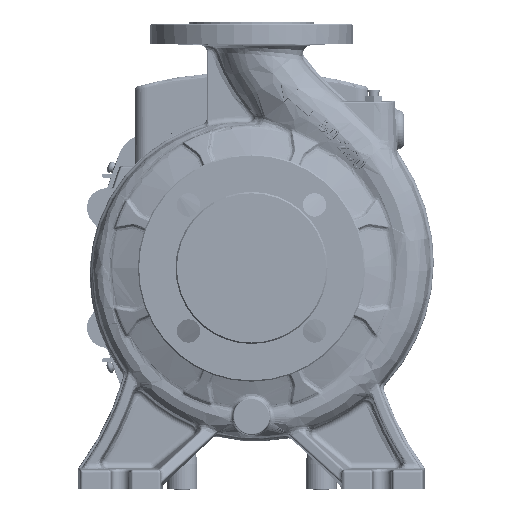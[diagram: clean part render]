
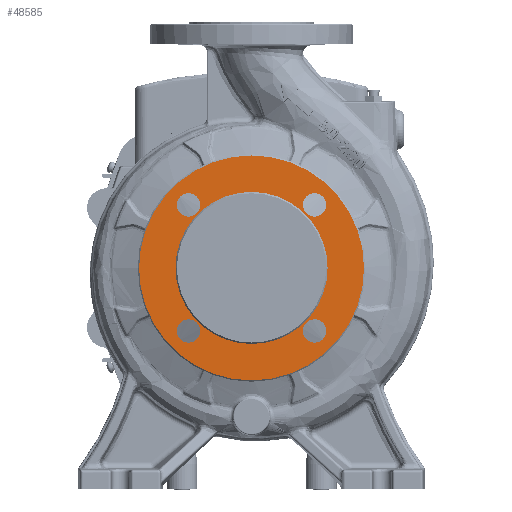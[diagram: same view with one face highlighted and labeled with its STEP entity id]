
A CAD part, left-side view. The second image highlights one B-rep face of the part: STEP entity #48585.
In plain terms, the highlighted planar face has unit normal (-1, 0, 0).
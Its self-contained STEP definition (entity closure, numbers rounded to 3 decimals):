
#261 = CARTESIAN_POINT ( 'NONE',  ( -231.052, 44.548, -57.983 ) ) ;
#371 = CARTESIAN_POINT ( 'NONE',  ( -231.052, -44.548, -57.983 ) ) ;
#1332 = VERTEX_POINT ( 'NONE', #95648 ) ;
#1523 = DIRECTION ( 'NONE',  ( 0., 1., 0. ) ) ;
#1953 = ORIENTED_EDGE ( 'NONE', *, *, #36037, .F. ) ;
#2714 = CIRCLE ( 'NONE', #34685, 9.5 ) ;
#5966 = PLANE ( 'NONE',  #37801 ) ;
#6029 = EDGE_CURVE ( 'NONE', #34391, #108212, #92237, .T. ) ;
#7303 = EDGE_LOOP ( 'NONE', ( #144064, #178997 ) ) ;
#7658 = CARTESIAN_POINT ( 'NONE',  ( -231.052, 0., 0. ) ) ;
#9319 = AXIS2_PLACEMENT_3D ( 'NONE', #102156, #33964, #89418 ) ;
#12334 = EDGE_CURVE ( 'NONE', #123122, #23027, #106817, .T. ) ;
#13925 = CIRCLE ( 'NONE', #77739, 9.5 ) ;
#19609 = DIRECTION ( 'NONE',  ( 0., -1., 0. ) ) ;
#19774 = DIRECTION ( 'NONE',  ( -1., 0., 0. ) ) ;
#20206 = ORIENTED_EDGE ( 'NONE', *, *, #169000, .F. ) ;
#21420 = FACE_BOUND ( 'NONE', #172762, .T. ) ;
#23027 = VERTEX_POINT ( 'NONE', #97337 ) ;
#26525 = EDGE_CURVE ( 'NONE', #108212, #34391, #105216, .T. ) ;
#26878 = AXIS2_PLACEMENT_3D ( 'NONE', #112378, #31438, #99658 ) ;
#29660 = EDGE_LOOP ( 'NONE', ( #34138, #103903 ) ) ;
#31438 = DIRECTION ( 'NONE',  ( -1., 0., 0. ) ) ;
#33298 = DIRECTION ( 'NONE',  ( 1., 0., 0. ) ) ;
#33964 = DIRECTION ( 'NONE',  ( -1., 0., 0. ) ) ;
#34138 = ORIENTED_EDGE ( 'NONE', *, *, #6029, .T. ) ;
#34391 = VERTEX_POINT ( 'NONE', #132506 ) ;
#34685 = AXIS2_PLACEMENT_3D ( 'NONE', #115213, #116121, #88873 ) ;
#36037 = EDGE_CURVE ( 'NONE', #176637, #162954, #171864, .T. ) ;
#36344 = DIRECTION ( 'NONE',  ( 0., 1., 0. ) ) ;
#37159 = AXIS2_PLACEMENT_3D ( 'NONE', #125285, #82614, #66230 ) ;
#37801 = AXIS2_PLACEMENT_3D ( 'NONE', #117802, #33298, #19609 ) ;
#39247 = EDGE_CURVE ( 'NONE', #86935, #1332, #175545, .T. ) ;
#39420 = CIRCLE ( 'NONE', #91665, 9.5 ) ;
#41987 = DIRECTION ( 'NONE',  ( 0., 1., 0. ) ) ;
#43456 = DIRECTION ( 'NONE',  ( -1., 0., 0. ) ) ;
#43990 = DIRECTION ( 'NONE',  ( 0., 1., 0. ) ) ;
#44354 = DIRECTION ( 'NONE',  ( 0., 1., 0. ) ) ;
#45271 = EDGE_CURVE ( 'NONE', #80921, #136602, #2714, .T. ) ;
#45557 = CIRCLE ( 'NONE', #141315, 9.5 ) ;
#46515 = VERTEX_POINT ( 'NONE', #90263 ) ;
#47294 = CARTESIAN_POINT ( 'NONE',  ( -231.052, 44.548, 57.983 ) ) ;
#48585 = ADVANCED_FACE ( 'NONE', ( #173206, #119591, #21420, #145023, #103280, #48689 ), #5966, .F. ) ;
#48689 = FACE_BOUND ( 'NONE', #7303, .T. ) ;
#49032 = CIRCLE ( 'NONE', #115861, 9.5 ) ;
#56821 = ORIENTED_EDGE ( 'NONE', *, *, #45271, .F. ) ;
#60419 = DIRECTION ( 'NONE',  ( 0., 1., 0. ) ) ;
#65103 = CARTESIAN_POINT ( 'NONE',  ( -231.052, -44.548, 57.983 ) ) ;
#65760 = ORIENTED_EDGE ( 'NONE', *, *, #116231, .F. ) ;
#66230 = DIRECTION ( 'NONE',  ( 0., 1., 0. ) ) ;
#70664 = AXIS2_PLACEMENT_3D ( 'NONE', #179440, #110397, #43990 ) ;
#76819 = AXIS2_PLACEMENT_3D ( 'NONE', #7658, #104044, #60419 ) ;
#77244 = DIRECTION ( 'NONE',  ( -1., 0., 0. ) ) ;
#77739 = AXIS2_PLACEMENT_3D ( 'NONE', #176935, #145127, #92448 ) ;
#78688 = ORIENTED_EDGE ( 'NONE', *, *, #121295, .F. ) ;
#80921 = VERTEX_POINT ( 'NONE', #65103 ) ;
#82614 = DIRECTION ( 'NONE',  ( -1., 0., 0. ) ) ;
#86935 = VERTEX_POINT ( 'NONE', #147007 ) ;
#88124 = EDGE_CURVE ( 'NONE', #1332, #86935, #132602, .T. ) ;
#88873 = DIRECTION ( 'NONE',  ( 0., 1., 0. ) ) ;
#88945 = CARTESIAN_POINT ( 'NONE',  ( -231.052, 57.983, -44.548 ) ) ;
#89418 = DIRECTION ( 'NONE',  ( 0., 1., 0. ) ) ;
#90263 = CARTESIAN_POINT ( 'NONE',  ( -231.052, -57.983, -44.548 ) ) ;
#91665 = AXIS2_PLACEMENT_3D ( 'NONE', #112543, #43456, #44354 ) ;
#92237 = CIRCLE ( 'NONE', #138691, 91.5 ) ;
#92448 = DIRECTION ( 'NONE',  ( 0., 1., 0. ) ) ;
#95648 = CARTESIAN_POINT ( 'NONE',  ( -231.052, 61.863, 0.083 ) ) ;
#97337 = CARTESIAN_POINT ( 'NONE',  ( -231.052, 57.983, 44.548 ) ) ;
#97795 = DIRECTION ( 'NONE',  ( -1., 0., 0. ) ) ;
#98365 = ORIENTED_EDGE ( 'NONE', *, *, #88124, .T. ) ;
#99658 = DIRECTION ( 'NONE',  ( 0., 1., 0. ) ) ;
#102156 = CARTESIAN_POINT ( 'NONE',  ( -231.052, 51.265, -51.265 ) ) ;
#103280 = FACE_BOUND ( 'NONE', #130980, .T. ) ;
#103903 = ORIENTED_EDGE ( 'NONE', *, *, #26525, .T. ) ;
#104044 = DIRECTION ( 'NONE',  ( 1., 0., 0. ) ) ;
#105216 = CIRCLE ( 'NONE', #26878, 91.5 ) ;
#106817 = CIRCLE ( 'NONE', #37159, 9.5 ) ;
#108212 = VERTEX_POINT ( 'NONE', #116133 ) ;
#108833 = ORIENTED_EDGE ( 'NONE', *, *, #172106, .F. ) ;
#109862 = ORIENTED_EDGE ( 'NONE', *, *, #39247, .T. ) ;
#110397 = DIRECTION ( 'NONE',  ( -1., 0., 0. ) ) ;
#112316 = CARTESIAN_POINT ( 'NONE',  ( -231.052, 51.265, 51.265 ) ) ;
#112378 = CARTESIAN_POINT ( 'NONE',  ( -231.052, 0., 0. ) ) ;
#112543 = CARTESIAN_POINT ( 'NONE',  ( -231.052, -51.265, -51.265 ) ) ;
#115213 = CARTESIAN_POINT ( 'NONE',  ( -231.052, -51.265, 51.265 ) ) ;
#115861 = AXIS2_PLACEMENT_3D ( 'NONE', #112316, #97795, #154092 ) ;
#116121 = DIRECTION ( 'NONE',  ( -1., 0., 0. ) ) ;
#116133 = CARTESIAN_POINT ( 'NONE',  ( -231.052, -91.5, 0. ) ) ;
#116231 = EDGE_CURVE ( 'NONE', #162954, #176637, #163573, .T. ) ;
#117802 = CARTESIAN_POINT ( 'NONE',  ( -231.052, 5.093, -0.083 ) ) ;
#119591 = FACE_BOUND ( 'NONE', #177011, .T. ) ;
#121295 = EDGE_CURVE ( 'NONE', #46515, #138717, #39420, .T. ) ;
#123122 = VERTEX_POINT ( 'NONE', #47294 ) ;
#125285 = CARTESIAN_POINT ( 'NONE',  ( -231.052, 51.265, 51.265 ) ) ;
#128429 = EDGE_CURVE ( 'NONE', #23027, #123122, #49032, .T. ) ;
#130980 = EDGE_LOOP ( 'NONE', ( #108833, #78688 ) ) ;
#132506 = CARTESIAN_POINT ( 'NONE',  ( -231.052, 91.5, 0. ) ) ;
#132602 = CIRCLE ( 'NONE', #167507, 61.863 ) ;
#133309 = CARTESIAN_POINT ( 'NONE',  ( -231.052, -57.983, 44.548 ) ) ;
#136385 = EDGE_LOOP ( 'NONE', ( #109862, #98365 ) ) ;
#136602 = VERTEX_POINT ( 'NONE', #133309 ) ;
#138691 = AXIS2_PLACEMENT_3D ( 'NONE', #166468, #19774, #41987 ) ;
#138717 = VERTEX_POINT ( 'NONE', #371 ) ;
#141315 = AXIS2_PLACEMENT_3D ( 'NONE', #161721, #77244, #36344 ) ;
#144064 = ORIENTED_EDGE ( 'NONE', *, *, #12334, .F. ) ;
#145023 = FACE_BOUND ( 'NONE', #136385, .T. ) ;
#145127 = DIRECTION ( 'NONE',  ( -1., 0., 0. ) ) ;
#147007 = CARTESIAN_POINT ( 'NONE',  ( -231.052, -61.863, -0.083 ) ) ;
#154092 = DIRECTION ( 'NONE',  ( 0., 1., 0. ) ) ;
#161721 = CARTESIAN_POINT ( 'NONE',  ( -231.052, -51.265, 51.265 ) ) ;
#162721 = CARTESIAN_POINT ( 'NONE',  ( -231.052, 0., 0. ) ) ;
#162954 = VERTEX_POINT ( 'NONE', #261 ) ;
#163573 = CIRCLE ( 'NONE', #70664, 9.5 ) ;
#166468 = CARTESIAN_POINT ( 'NONE',  ( -231.052, 0., 0. ) ) ;
#167507 = AXIS2_PLACEMENT_3D ( 'NONE', #162721, #170490, #1523 ) ;
#169000 = EDGE_CURVE ( 'NONE', #136602, #80921, #45557, .T. ) ;
#170490 = DIRECTION ( 'NONE',  ( 1., 0., 0. ) ) ;
#171864 = CIRCLE ( 'NONE', #9319, 9.5 ) ;
#172106 = EDGE_CURVE ( 'NONE', #138717, #46515, #13925, .T. ) ;
#172762 = EDGE_LOOP ( 'NONE', ( #1953, #65760 ) ) ;
#173206 = FACE_OUTER_BOUND ( 'NONE', #29660, .T. ) ;
#175545 = CIRCLE ( 'NONE', #76819, 61.863 ) ;
#176637 = VERTEX_POINT ( 'NONE', #88945 ) ;
#176935 = CARTESIAN_POINT ( 'NONE',  ( -231.052, -51.265, -51.265 ) ) ;
#177011 = EDGE_LOOP ( 'NONE', ( #20206, #56821 ) ) ;
#178997 = ORIENTED_EDGE ( 'NONE', *, *, #128429, .F. ) ;
#179440 = CARTESIAN_POINT ( 'NONE',  ( -231.052, 51.265, -51.265 ) ) ;
